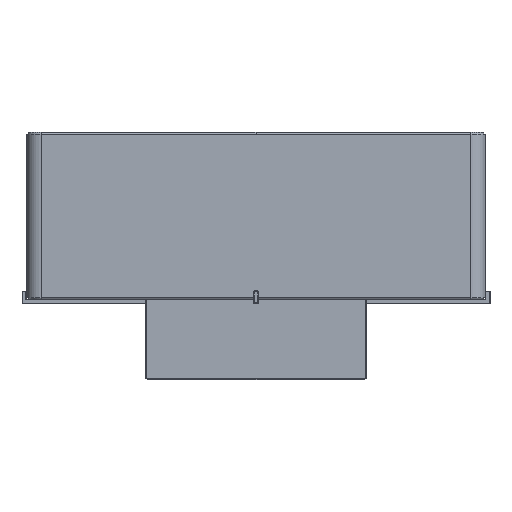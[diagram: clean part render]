
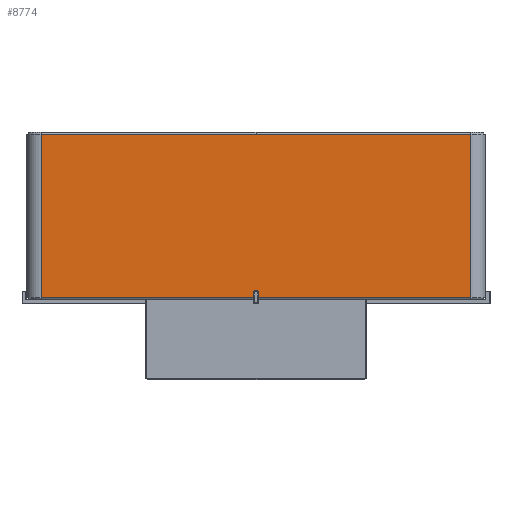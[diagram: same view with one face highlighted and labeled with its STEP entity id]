
A CAD part, top view. The second image highlights one B-rep face of the part: STEP entity #8774.
In plain terms, the highlighted planar face has unit normal (0, 0, 1).
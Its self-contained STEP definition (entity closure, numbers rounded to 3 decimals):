
#298 = AXIS2_PLACEMENT_3D ( 'NONE', #18323, #34162, #27855 ) ;
#356 = CARTESIAN_POINT ( 'NONE',  ( 257.5, 196., 67.5 ) ) ;
#660 = VECTOR ( 'NONE', #25673, 1000. ) ;
#5305 = LINE ( 'NONE', #8574, #15505 ) ;
#5538 = EDGE_CURVE ( 'NONE', #31748, #30940, #32422, .T. ) ;
#7702 = PLANE ( 'NONE',  #298 ) ;
#8103 = CARTESIAN_POINT ( 'NONE',  ( 257.5, 196., 67.5 ) ) ;
#8254 = VERTEX_POINT ( 'NONE', #11431 ) ;
#8574 = CARTESIAN_POINT ( 'NONE',  ( 257.5, 0., 67.5 ) ) ;
#8774 = ADVANCED_FACE ( 'NONE', ( #17468 ), #7702, .F. ) ;
#9008 = ORIENTED_EDGE ( 'NONE', *, *, #5538, .T. ) ;
#9437 = CARTESIAN_POINT ( 'NONE',  ( -257.5, 196., 67.5 ) ) ;
#9517 = EDGE_LOOP ( 'NONE', ( #12688, #32700, #31426, #9008 ) ) ;
#11431 = CARTESIAN_POINT ( 'NONE',  ( 257.5, 0., 67.5 ) ) ;
#12688 = ORIENTED_EDGE ( 'NONE', *, *, #15176, .F. ) ;
#15176 = EDGE_CURVE ( 'NONE', #8254, #30940, #5305, .T. ) ;
#15505 = VECTOR ( 'NONE', #28097, 1000. ) ;
#16895 = CARTESIAN_POINT ( 'NONE',  ( -257.5, 196., 67.5 ) ) ;
#17415 = EDGE_CURVE ( 'NONE', #22958, #8254, #34354, .T. ) ;
#17468 = FACE_OUTER_BOUND ( 'NONE', #9517, .T. ) ;
#18323 = CARTESIAN_POINT ( 'NONE',  ( 257.5, 196., 67.5 ) ) ;
#20573 = VECTOR ( 'NONE', #30061, 1000. ) ;
#22958 = VERTEX_POINT ( 'NONE', #26079 ) ;
#25673 = DIRECTION ( 'NONE',  ( 0., -1., 0. ) ) ;
#26079 = CARTESIAN_POINT ( 'NONE',  ( 257.5, 196., 67.5 ) ) ;
#27855 = DIRECTION ( 'NONE',  ( -1., 0., 0. ) ) ;
#28097 = DIRECTION ( 'NONE',  ( -1., 0., 0. ) ) ;
#30061 = DIRECTION ( 'NONE',  ( -1., 0., 0. ) ) ;
#30857 = EDGE_CURVE ( 'NONE', #22958, #31748, #40461, .T. ) ;
#30940 = VERTEX_POINT ( 'NONE', #37218 ) ;
#31426 = ORIENTED_EDGE ( 'NONE', *, *, #30857, .T. ) ;
#31748 = VERTEX_POINT ( 'NONE', #16895 ) ;
#32422 = LINE ( 'NONE', #9437, #660 ) ;
#32700 = ORIENTED_EDGE ( 'NONE', *, *, #17415, .F. ) ;
#33348 = VECTOR ( 'NONE', #37593, 1000. ) ;
#34162 = DIRECTION ( 'NONE',  ( 0., 0., -1. ) ) ;
#34354 = LINE ( 'NONE', #8103, #33348 ) ;
#37218 = CARTESIAN_POINT ( 'NONE',  ( -257.5, 0., 67.5 ) ) ;
#37593 = DIRECTION ( 'NONE',  ( 0., -1., 0. ) ) ;
#40461 = LINE ( 'NONE', #356, #20573 ) ;
